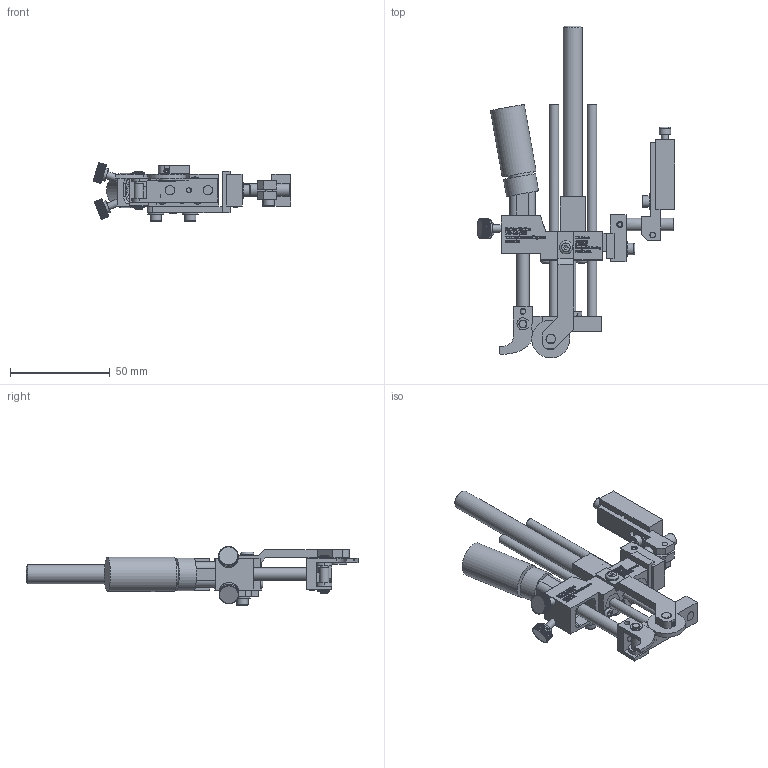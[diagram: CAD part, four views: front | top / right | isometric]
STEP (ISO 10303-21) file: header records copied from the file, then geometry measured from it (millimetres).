
FILE_DESCRIPTION((''),'2;1');
FILE_NAME('C:\Documents and Settings\Ron\My Documents\Inventor\Sprinter Drawing\Machines in Inventor\Model 22\Dot\3-sixth\Ext Hd 1in\Brkt\Ret\Model 22 EH 1 3-16 dot ret brkt.stp','2009-01-19T09:28:28',('Ron'),(''),'Autodesk Inventor 2008','Autodesk Inventor 2008','');
FILE_SCHEMA(('AUTOMOTIVE_DESIGN { 1 0 10303 214 1 1 1 1 }'));
Length unit declared in the file: inch
Products named in the file (1): Model 22 EH 1 3-16 dot ret  brkt
Bounding box: 99.17 x 166.65 x 29.55 mm (x, y, z)
Volume: 61629 mm3; surface area: 36671.6 mm2
Topology: 34 solids, 34 shells, 4724 faces, 13120 edges, 8713 vertices
Faces by surface type: plane 2881, bspline 1287, cylinder 487, cone 55, torus 14
Full cylindrical faces by diameter (mm): 2.845 x3, 2.946 x2, 3.175 x4, 3.493 x1, 3.505 x7, 3.556 x2, 3.658 x1, 3.876 x1, 3.962 x9, 4.064 x1, 4.166 x3, 4.648 x2, 4.699 x1, 4.75 x3, 4.763 x2, 4.788 x1, 5.41 x2, 5.74 x6, 6.096 x1, 6.325 x2, 6.337 x1, 6.35 x3, 6.477 x1, 6.655 x1, 7.925 x4, 7.938 x3, 8.128 x1, 9.525 x1, 10.922 x1, 11.938 x1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
Entity records: 165281 total; most frequent: CARTESIAN_POINT 48871, ORIENTED_EDGE 25672, DIRECTION 18389, EDGE_CURVE 12836, VECTOR 9019, LINE 9019, VERTEX_POINT 8614, EDGE_LOOP 5250
